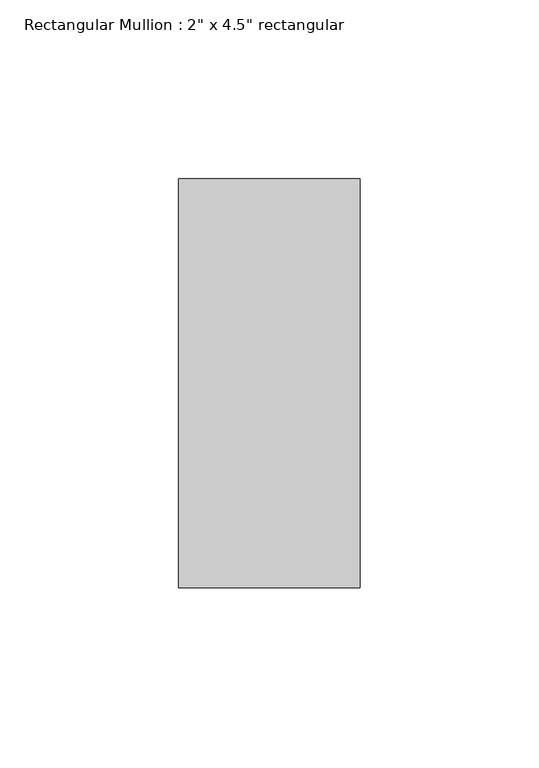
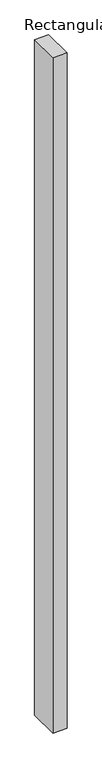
"""IFC4 building model written with IfcOpenShell, lengths in millimetres: member geometry."""

from ifc_helpers import new_model, si_unit, frame, origin, place, context, project, spatial, polyline, outline, extrude, source, transform, mapped, element, save


def member_800970d4(model_context):
    return source(origin(), model_context, "Body", "SweptSolid", [
        extrude(outline(polyline([(0.0, 57.15), (0.0, -57.15), (-50.8, -57.15), (-50.8, 57.15), (0.0, 57.15)])), frame((0.0, 0.0, -2590.8), z_axis=(0.0, 0.0, 1.0), x_axis=(1.0, 0.0, 0.0)), (0.0, 0.0, 1.0), 2590.8),
    ])


if __name__ == "__main__":
    model = new_model("IFC4")
    model_context = context("Model", 3, world=origin())
    ifc_project = project(units=[si_unit("LENGTHUNIT", "METRE", prefix="MILLI")], contexts=[model_context])
    site = spatial("IfcSite", under=ifc_project)
    building = spatial("IfcBuilding", under=site)
    placement = place(None, origin())
    member_shape = member_800970d4(model_context)
    element("IfcMember", 1, ObjectType="Rectangular Mullion : 2\" x 4.5\" rectangular", at=placement, inside=building, context=model_context, shape_type="MappedRepresentation", body=[
        mapped(member_shape, transform((0.0, 0.0, 0.0), x_axis=(1.0, 0.0, 0.0), y_axis=(0.0, 1.0, 0.0), z_axis=(0.0, 0.0, 1.0))),
    ])
    save(model, "model.ifc")
